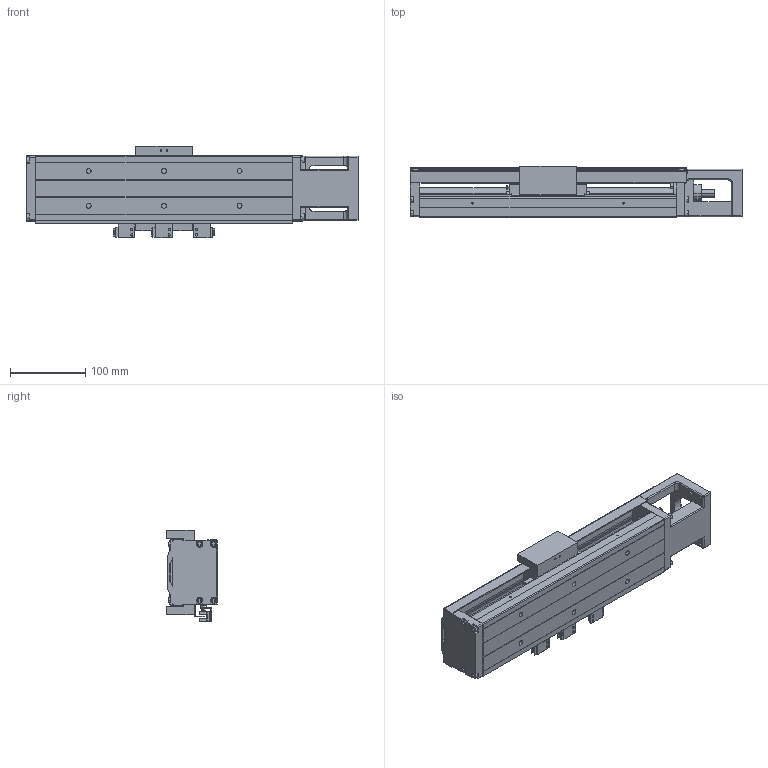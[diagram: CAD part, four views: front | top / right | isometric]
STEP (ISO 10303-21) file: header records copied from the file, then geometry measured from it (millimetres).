
FILE_DESCRIPTION (( 'STEP AP203' ), '1' );
FILE_NAME ('HKK86D10C-340A1-F0CS2.stp', '2021-11-30T02:57:59', ( '' ), ( '' ), 'SwSTEP 2.0', 'SolidWorks 2018', '' );
FILE_SCHEMA (( 'CONFIG_CONTROL_DESIGN' ));
Length unit declared in the file: millimetre
Products named in the file (1): HKK86D10C-340A1-F0CS2
Bounding box: 440 x 68 x 121.5 mm (x, y, z)
Volume: 1267414.7 mm3; surface area: 330634.5 mm2
Topology: 6 solids, 15 shells, 1323 faces, 3341 edges, 2118 vertices
Faces by surface type: plane 755, cylinder 401, cone 118, torus 32, sphere 9, bspline 8
Entity records: 39713 total; most frequent: CARTESIAN_POINT 7923, ORIENTED_EDGE 6566, DIRECTION 6559, EDGE_CURVE 3283, LINE 2237, VECTOR 2237, AXIS2_PLACEMENT_3D 2161, VERTEX_POINT 2114
